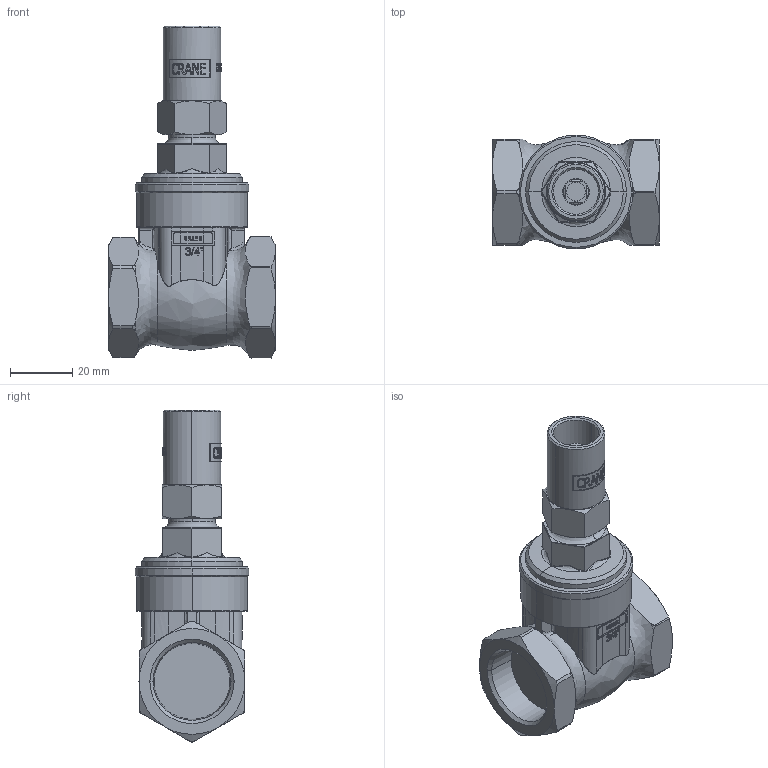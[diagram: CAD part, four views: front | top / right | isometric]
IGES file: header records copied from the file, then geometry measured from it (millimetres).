
Global section: file name: No Iges File Name specified; native system: AutoDesk Inventor R12.0; preprocessor: AutoDesk Inventor Iges Exporter R12.0; date: 20110314.101105; units: millimetre
Bounding box: 53.5 x 36.5 x 106.42 mm (x, y, z)
Volume: 71041.5 mm3; surface area: 17749.1 mm2
Topology: 1 solids, 1 shells, 883 faces, 2333 edges, 1492 vertices
Faces by surface type: bspline 377, plane 304, cylinder 119, revolution 33, cone 32, torus 18
